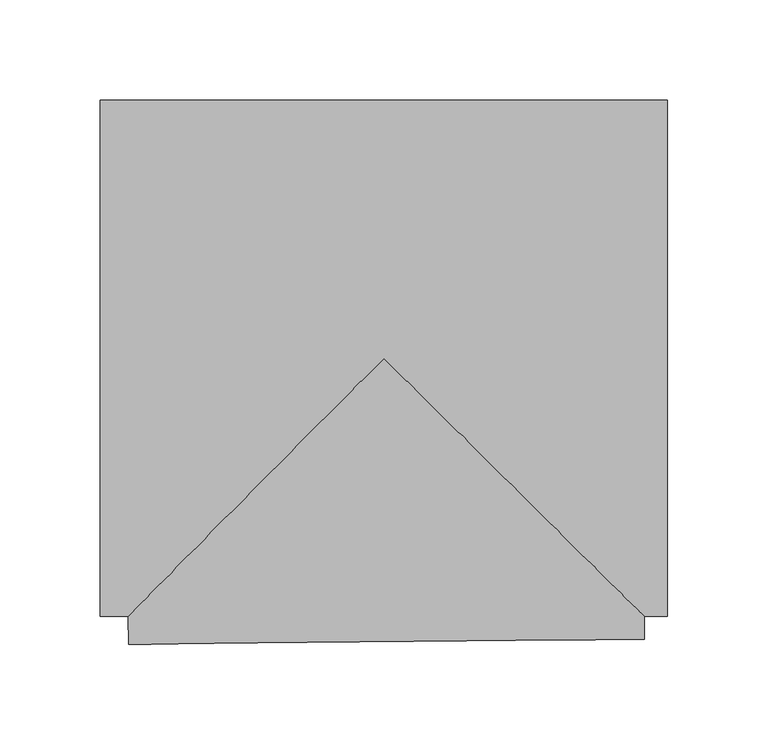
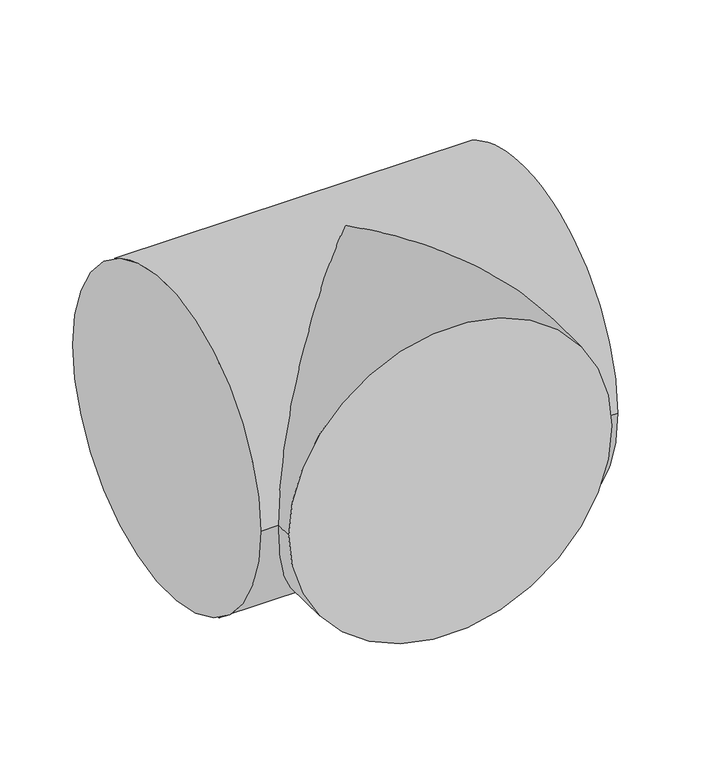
"""IFC4 building model written with IfcOpenShell, lengths in millimetres: pipe fitting geometry, M_Te - Genérica : Estándar."""

from ifc_helpers import new_model, si_unit, frame, origin, place, context, project, spatial, circle_curve, ellipse_curve, source, transform, mapped, element, save
from ifc_brep_helpers import plane_surface, cylinder_surface, advanced_brep


def pipe_fitting_06b8e898(model_context):
    return source(origin(), model_context, "Body", "AdvancedBrep", [
        advanced_brep(
        [(-141.2875, -128.5875, 0.0), (-141.2875, 128.5875, 0.0), (141.2875, -128.5875, 0.0), (141.2875, 128.5875, 0.0), (-127.3080542, -128.5875, 0.0), (0.0, 0.0, 128.5875), (129.8798042, -128.5875, 0.0), (0.0, 0.0, -128.5875), (-127.1682667, -142.5662469, 0.0), (129.9938755, -139.9946254, 0.0)],
        [
            (0, 1, circle_curve(frame((-141.2875, 0.0, 0.0), z_axis=(-1.0, 0.0, 0.0), x_axis=(0.0, 1.0, 0.0)), 128.5875)),
            (1, 0, circle_curve(frame((-141.2875, 0.0, 0.0), z_axis=(-1.0, 0.0, 0.0), x_axis=(0.0, 1.0, 0.0)), 128.5875)),
            (2, 3, circle_curve(frame((141.2875, 0.0, 0.0), z_axis=(1.0, 0.0, 0.0), x_axis=(0.0, 1.0, 0.0)), 128.5875)),
            (3, 2, circle_curve(frame((141.2875, 0.0, 0.0), z_axis=(1.0, 0.0, 0.0), x_axis=(0.0, 1.0, 0.0)), 128.5875)),
            (0, 4),
            (4, 5, ellipse_curve(frame((0.0, 0.0, 0.0), z_axis=(-0.7106333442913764, 0.7035625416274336, 0.0), x_axis=(-0.7035625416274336, -0.7106333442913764, 0.0)), 180.9477434, 128.5875)),
            (5, 6, ellipse_curve(frame((0.0, 0.0, 0.0), z_axis=(0.7035625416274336, 0.7106333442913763, 0.0), x_axis=(-0.7106333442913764, 0.7035625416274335, 0.0)), 182.7662679, 128.5875)),
            (6, 2),
            (3, 1),
            (6, 7, ellipse_curve(frame((0.0, 0.0, 0.0), z_axis=(0.7035625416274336, 0.7106333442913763, 0.0), x_axis=(-0.7106333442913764, 0.7035625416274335, 0.0)), 182.7662679, 128.5875)),
            (7, 4, ellipse_curve(frame((0.0, 0.0, 0.0), z_axis=(-0.7106333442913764, 0.7035625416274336, 0.0), x_axis=(-0.7035625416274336, -0.7106333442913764, 0.0)), 180.9477434, 128.5875)),
            (8, 9, circle_curve(frame((1.4128044, -141.2804362, 0.0), z_axis=(0.009999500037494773, -0.9999500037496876, 0.0), x_axis=(0.9999500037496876, 0.009999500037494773, 0.0)), 128.5875)),
            (9, 8, circle_curve(frame((1.4128044, -141.2804362, 0.0), z_axis=(0.009999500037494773, -0.9999500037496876, 0.0), x_axis=(0.9999500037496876, 0.009999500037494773, 0.0)), 128.5875)),
            (9, 6),
            (4, 8),
        ],
        [
            plane_surface(frame((-141.2875, 0.0, 0.0), z_axis=(-1.0, 0.0, 0.0), x_axis=(0.0, 0.0, 1.0))),
            plane_surface(frame((141.2875, 0.0, 0.0), z_axis=(1.0, 0.0, 0.0), x_axis=(0.0, 0.0, 1.0))),
            cylinder_surface(frame((-141.2875, 0.0, 0.0), z_axis=(-1.0, 0.0, 0.0), x_axis=(0.0, 1.0, 0.0)), 128.5875),
            plane_surface(frame((1.4128044, -141.2804362, 0.0), z_axis=(0.009999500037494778, -0.9999500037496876, 0.0), x_axis=(0.0, 0.0, 1.0))),
            cylinder_surface(frame((0.0, 0.0, 0.0), z_axis=(-0.009999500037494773, 0.9999500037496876, 0.0), x_axis=(0.9999500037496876, 0.009999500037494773, 0.0)), 128.5875),
        ],
        [
            (0, [[1, 2]]),
            (1, [[3, 4]]),
            (2, [[-1, 5, 6, 7, 8, -4, 9]]),
            (2, [[-2, -9, -3, -8, 10, 11, -5]]),
            (3, [[12, 13]]),
            (4, [[-13, 14, -7, -6, 15]]),
            (4, [[-12, -15, -11, -10, -14]]),
        ],
    ),
    ])


if __name__ == "__main__":
    model = new_model("IFC4")
    model_context = context("Model", 3, world=origin())
    ifc_project = project(units=[si_unit("LENGTHUNIT", "METRE", prefix="MILLI")], contexts=[model_context])
    site = spatial("IfcSite", under=ifc_project)
    building = spatial("IfcBuilding", under=site)
    placement = place(None, origin())
    pipe_fitting_shape = pipe_fitting_06b8e898(model_context)
    element("IfcPipeFitting", 1, ObjectType="M_Te - Genérica : Estándar", at=placement, inside=building, context=model_context, shape_type="MappedRepresentation", body=[
        mapped(pipe_fitting_shape, transform((0.0, 0.0, 0.0), x_axis=(1.0, 0.0, 0.0), y_axis=(0.0, 1.0, 0.0), z_axis=(0.0, 0.0, 1.0))),
    ])
    save(model, "model.ifc")
